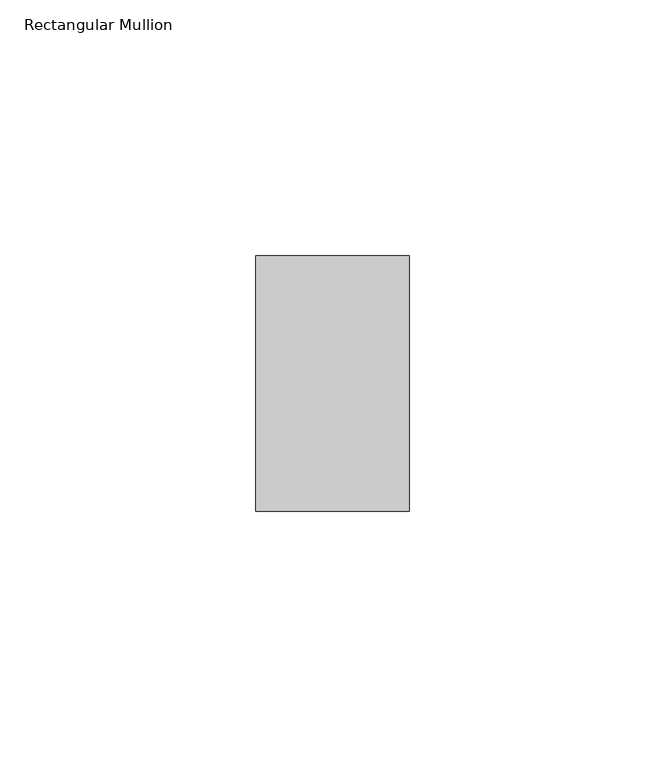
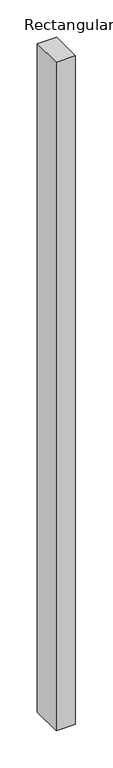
"""IFC4 building model written with IfcOpenShell, lengths in millimetres: member geometry, Rectangular Mullion : ARQ_TV_MULL_50x30mm."""

from ifc_helpers import new_model, si_unit, frame, origin, place, context, project, spatial, polyline, outline, extrude, source, transform, mapped, element, save


def rectangular_mullion_685686f8(model_context):
    return source(origin(), model_context, "Body", "SweptSolid", [
        extrude(outline(polyline([(15.0, 25.0), (15.0, -25.0), (-15.0, -25.0), (-15.0, 25.0), (15.0, 25.0)])), frame((0.0, 0.0, -1091.247727), z_axis=(0.0, 0.0, 1.0), x_axis=(1.0, 0.0, 0.0)), (0.0, 0.0, 1.0), 1091.247727),
    ])


if __name__ == "__main__":
    model = new_model("IFC4")
    model_context = context("Model", 3, world=origin())
    ifc_project = project(units=[si_unit("LENGTHUNIT", "METRE", prefix="MILLI")], contexts=[model_context])
    site = spatial("IfcSite", under=ifc_project)
    building = spatial("IfcBuilding", under=site)
    placement = place(None, origin())
    rectangular_mullion_shape = rectangular_mullion_685686f8(model_context)
    element("IfcMember", 1, ObjectType="Rectangular Mullion : ARQ_TV_MULL_50x30mm", at=placement, inside=building, context=model_context, shape_type="MappedRepresentation", body=[
        mapped(rectangular_mullion_shape, transform((0.0, 0.0, 0.0), x_axis=(1.0, 0.0, 0.0), y_axis=(0.0, 1.0, 0.0), z_axis=(0.0, 0.0, 1.0))),
    ])
    save(model, "model.ifc")
